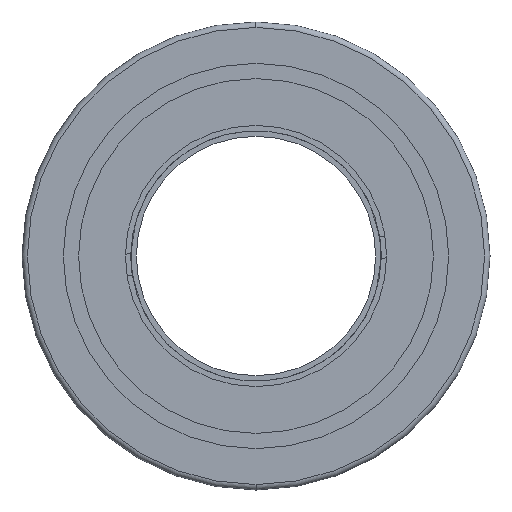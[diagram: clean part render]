
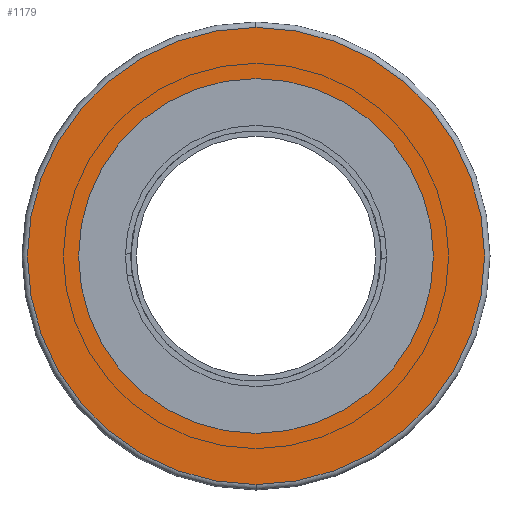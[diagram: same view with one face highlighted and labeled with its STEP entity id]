
A CAD part, left-side view. The second image highlights one B-rep face of the part: STEP entity #1179.
In plain terms, the highlighted planar face has unit normal (-1, 0, 0).
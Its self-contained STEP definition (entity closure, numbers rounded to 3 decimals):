
#17 = DIRECTION ( 'NONE',  ( 1., 0., 0. ) ) ;
#149 = FACE_BOUND ( 'NONE', #1630, .T. ) ;
#218 = CARTESIAN_POINT ( 'NONE',  ( -10.562, 1.897, -16.3 ) ) ;
#226 = VERTEX_POINT ( 'NONE', #450 ) ;
#248 = CARTESIAN_POINT ( 'NONE',  ( -10.562, 1.897, 16.3 ) ) ;
#326 = EDGE_CURVE ( 'NONE', #617, #1367, #1332, .T. ) ;
#344 = DIRECTION ( 'NONE',  ( 0., 0., -1. ) ) ;
#347 = CIRCLE ( 'NONE', #1520, 16.3 ) ;
#381 = ORIENTED_EDGE ( 'NONE', *, *, #1029, .T. ) ;
#450 = CARTESIAN_POINT ( 'NONE',  ( -10.562, 1.897, 21. ) ) ;
#456 = DIRECTION ( 'NONE',  ( 1., 0., 0. ) ) ;
#476 = CARTESIAN_POINT ( 'NONE',  ( -10.562, 1.897, 0. ) ) ;
#531 = CARTESIAN_POINT ( 'NONE',  ( -10.562, 1.897, 0. ) ) ;
#550 = AXIS2_PLACEMENT_3D ( 'NONE', #531, #17, #949 ) ;
#583 = AXIS2_PLACEMENT_3D ( 'NONE', #855, #850, #1645 ) ;
#617 = VERTEX_POINT ( 'NONE', #248 ) ;
#659 = ORIENTED_EDGE ( 'NONE', *, *, #1553, .T. ) ;
#719 = FACE_OUTER_BOUND ( 'NONE', #1063, .T. ) ;
#826 = PLANE ( 'NONE',  #550 ) ;
#850 = DIRECTION ( 'NONE',  ( 1., 0., 0. ) ) ;
#855 = CARTESIAN_POINT ( 'NONE',  ( -10.562, 1.897, 0. ) ) ;
#887 = AXIS2_PLACEMENT_3D ( 'NONE', #889, #1281, #344 ) ;
#889 = CARTESIAN_POINT ( 'NONE',  ( -10.562, 1.897, 0. ) ) ;
#949 = DIRECTION ( 'NONE',  ( 0., 0., -1. ) ) ;
#955 = CIRCLE ( 'NONE', #1143, 21. ) ;
#989 = EDGE_CURVE ( 'NONE', #1367, #617, #347, .T. ) ;
#1019 = CARTESIAN_POINT ( 'NONE',  ( -10.562, 1.897, -21. ) ) ;
#1029 = EDGE_CURVE ( 'NONE', #226, #1611, #955, .T. ) ;
#1037 = DIRECTION ( 'NONE',  ( -1., 0., 0. ) ) ;
#1048 = DIRECTION ( 'NONE',  ( 0., 0., -1. ) ) ;
#1063 = EDGE_LOOP ( 'NONE', ( #659, #381 ) ) ;
#1078 = CIRCLE ( 'NONE', #887, 21. ) ;
#1143 = AXIS2_PLACEMENT_3D ( 'NONE', #1436, #1037, #1048 ) ;
#1179 = ADVANCED_FACE ( 'NONE', ( #719, #149 ), #826, .F. ) ;
#1281 = DIRECTION ( 'NONE',  ( -1., 0., 0. ) ) ;
#1332 = CIRCLE ( 'NONE', #583, 16.3 ) ;
#1367 = VERTEX_POINT ( 'NONE', #218 ) ;
#1436 = CARTESIAN_POINT ( 'NONE',  ( -10.562, 1.897, 0. ) ) ;
#1520 = AXIS2_PLACEMENT_3D ( 'NONE', #476, #456, #1541 ) ;
#1541 = DIRECTION ( 'NONE',  ( 0., 0., -1. ) ) ;
#1547 = ORIENTED_EDGE ( 'NONE', *, *, #989, .T. ) ;
#1553 = EDGE_CURVE ( 'NONE', #1611, #226, #1078, .T. ) ;
#1611 = VERTEX_POINT ( 'NONE', #1019 ) ;
#1630 = EDGE_LOOP ( 'NONE', ( #1687, #1547 ) ) ;
#1645 = DIRECTION ( 'NONE',  ( 0., 0., -1. ) ) ;
#1687 = ORIENTED_EDGE ( 'NONE', *, *, #326, .T. ) ;
